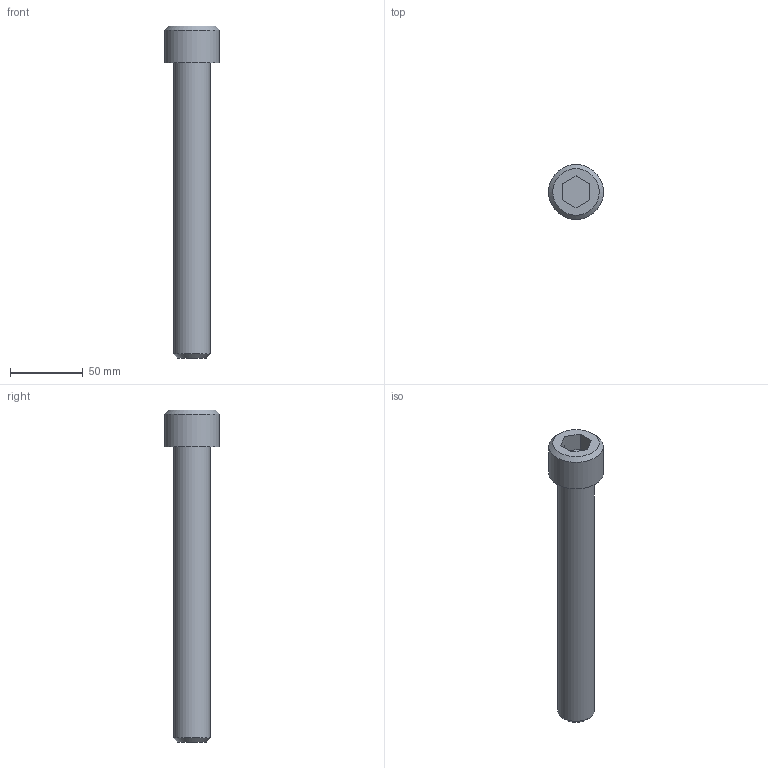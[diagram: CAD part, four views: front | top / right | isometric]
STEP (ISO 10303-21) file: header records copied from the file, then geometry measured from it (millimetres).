
FILE_DESCRIPTION((''),'2;1');
FILE_NAME('C:\Users\Stan\Desktop\import\SHCS 1-8 UNCx8.ipt.step','2011-08-18T17:44:25',(''),(''),'Autodesk Inventor 2012','Autodesk Inventor 2012','');
FILE_SCHEMA(('AUTOMOTIVE_DESIGN { 1 0 10303 214 1 1 1 1 }'));
Length unit declared in the file: inch
Products named in the file (1): SHCS 1-8 UNCx8
Bounding box: 37.8 x 37.8 x 228.45 mm (x, y, z)
Volume: 126555.9 mm3; surface area: 21927.4 mm2
Topology: 1 solids, 1 shells, 14 faces, 28 edges, 18 vertices
Faces by surface type: plane 10, cone 2, cylinder 2
Full cylindrical faces by diameter (mm): 25.4 x1, 37.795 x1
Entity records: 391 total; most frequent: DIRECTION 60, CARTESIAN_POINT 57, ORIENTED_EDGE 48, EDGE_CURVE 24, AXIS2_PLACEMENT_3D 21, EDGE_LOOP 20, VERTEX_POINT 18, VECTOR 18
